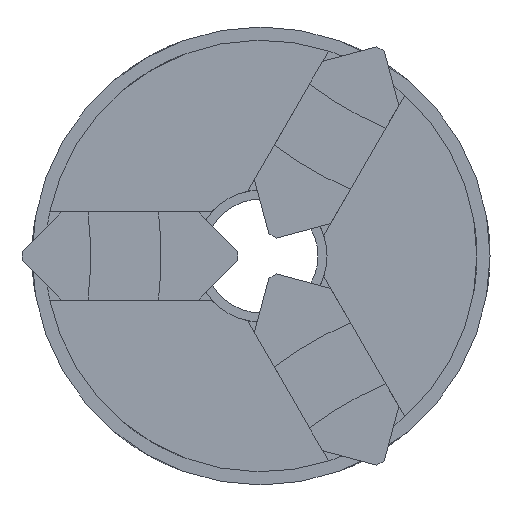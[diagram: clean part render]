
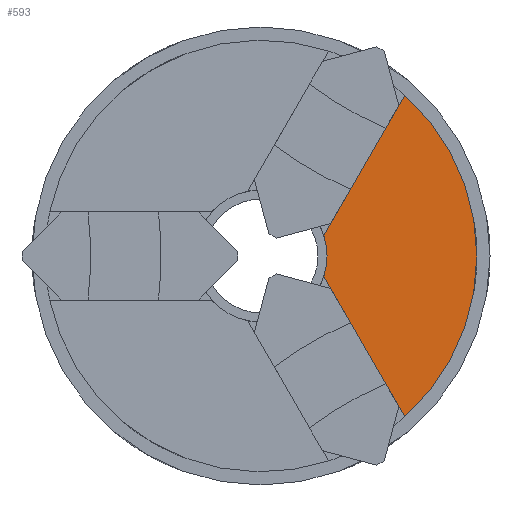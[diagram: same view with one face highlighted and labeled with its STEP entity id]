
A CAD part, left-side view. The second image highlights one B-rep face of the part: STEP entity #593.
In plain terms, the highlighted planar face has unit normal (-1, 0, 0).
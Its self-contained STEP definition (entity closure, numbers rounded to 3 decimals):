
#593=ADVANCED_FACE('',(#1497),#1499,.T.);
#1497=FACE_BOUND('',#1498,.T.);
#1498=EDGE_LOOP('',(#3521,#3522,#3523,#3524));
#1499=PLANE('',#1500);
#1500=AXIS2_PLACEMENT_3D('',#1501,#1502,#1503);
#1501=CARTESIAN_POINT('',(-33.,0.,0.));
#1502=DIRECTION('',(-1.,0.,0.));
#1503=DIRECTION('',(0.,1.,0.));
#3521=ORIENTED_EDGE('',*,*,#3880,.T.);
#3522=ORIENTED_EDGE('',*,*,#3852,.T.);
#3523=ORIENTED_EDGE('',*,*,#3879,.T.);
#3524=ORIENTED_EDGE('',*,*,#3881,.F.);
#3852=EDGE_CURVE('',#4146,#4144,#4147,.T.);
#3879=EDGE_CURVE('',#4144,#4188,#4190,.F.);
#3880=EDGE_CURVE('',#4191,#4146,#4192,.F.);
#3881=EDGE_CURVE('',#4191,#4188,#4193,.T.);
#4144=VERTEX_POINT('',#4948);
#4146=VERTEX_POINT('',#4952);
#4147=CIRCLE('',#4953,7.5);
#4188=VERTEX_POINT('',#5060);
#4190=LINE('',#5064,#5065);
#4191=VERTEX_POINT('',#5067);
#4192=LINE('',#5068,#5069);
#4193=CIRCLE('',#5071,24.5);
#4948=CARTESIAN_POINT('',(-33.,-7.125,-2.341));
#4952=CARTESIAN_POINT('',(-33.,-7.125,2.341));
#4953=AXIS2_PLACEMENT_3D('',#4954,#4955,#4956);
#4954=CARTESIAN_POINT('',(-33.,0.,0.));
#4955=DIRECTION('',(1.,-0.,0.));
#4956=DIRECTION('',(0.,-0.95,0.312));
#5060=CARTESIAN_POINT('',(-33.,-16.322,-18.271));
#5064=CARTESIAN_POINT('',(-33.,-16.322,-18.271));
#5065=VECTOR('',#5066,1.);
#5066=DIRECTION('',(0.,0.5,0.866));
#5067=CARTESIAN_POINT('',(-33.,-16.322,18.271));
#5068=CARTESIAN_POINT('',(-33.,-7.125,2.341));
#5069=VECTOR('',#5070,1.);
#5070=DIRECTION('',(0.,-0.5,0.866));
#5071=AXIS2_PLACEMENT_3D('',#5072,#5073,#5074);
#5072=CARTESIAN_POINT('',(-33.,0.,0.));
#5073=DIRECTION('',(1.,-0.,0.));
#5074=DIRECTION('',(0.,-0.666,0.746));
